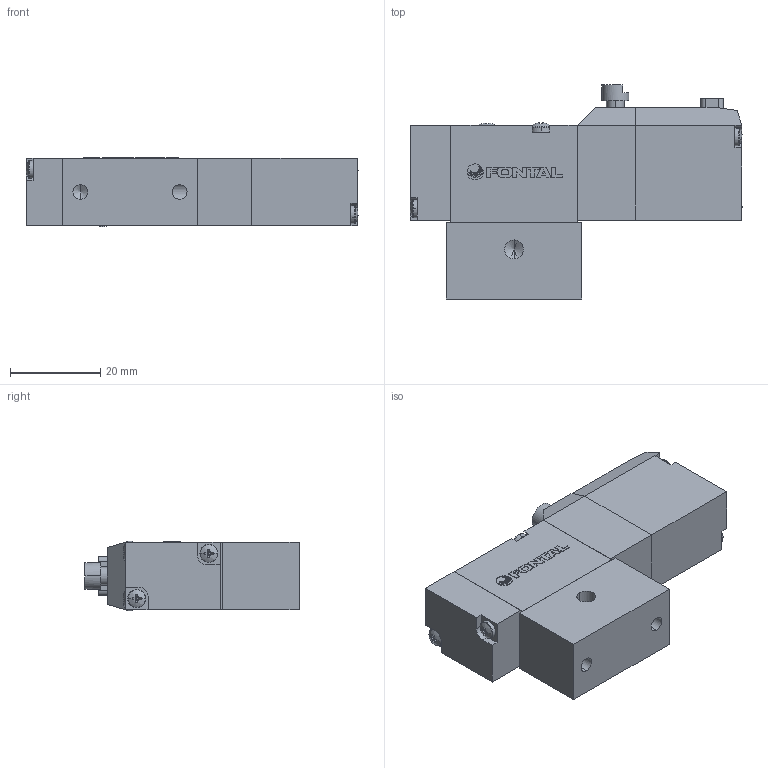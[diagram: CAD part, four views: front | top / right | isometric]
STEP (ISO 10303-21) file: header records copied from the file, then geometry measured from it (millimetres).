
FILE_DESCRIPTION (( 'STEP AP203' ), '1' );
FILE_NAME ('PCL245#-M5-#-U-#.STEP', '2016-02-04T03:50:11', ( 'Sam Lin' ), ( '' ), 'SwSTEP 2.0', 'SolidWorks 2013', '' );
FILE_SCHEMA (( 'CONFIG_CONTROL_DESIGN' ));
Length unit declared in the file: metre
Products named in the file (10): PC5-3-U; 手動鈕; PC5-1; PCL245#-M5-#-U-#; PC5-2; ISO 7045 - M2 x 10; PC5-5; PC-MARK; PC5-4; ISO 7045 - M2.5 x 25
Assembly tree (13 placements, depth 2):
  PCL245#-M5-#-U-#
    PC5-1
    PC5-2
    ISO 7045 - M2 x 10  x4
    PC5-5
    PC-MARK
    PC5-4
    ISO 7045 - M2.5 x 25  x2
    PC5-3-U
    手動鈕
Bounding box: 73.64 x 47.5 x 15.4 mm (x, y, z)
Volume: 31661.6 mm3; surface area: 13531.6 mm2
Topology: 19 solids, 19 shells, 480 faces, 1179 edges, 730 vertices
Faces by surface type: plane 266, cylinder 95, cone 75, bspline 44
Entity records: 10703 total; most frequent: CARTESIAN_POINT 2246, ORIENTED_EDGE 1518, DIRECTION 1493, EDGE_CURVE 759, AXIS2_PLACEMENT_3D 517, VERTEX_POINT 490, LINE 459, VECTOR 459
